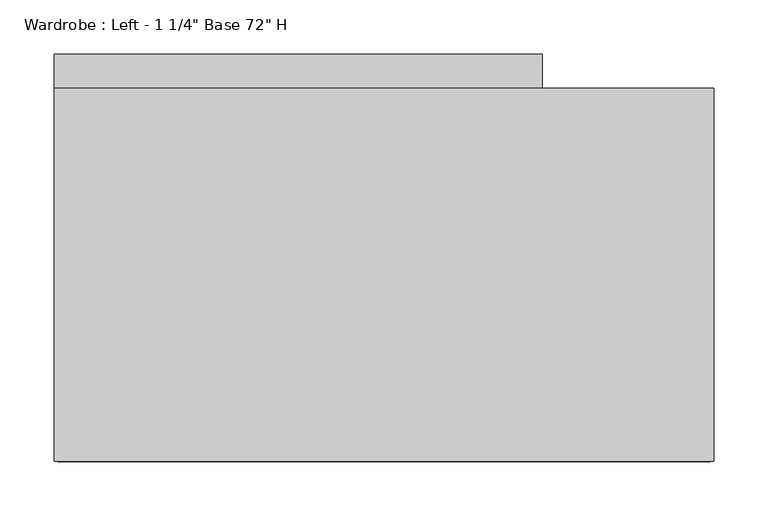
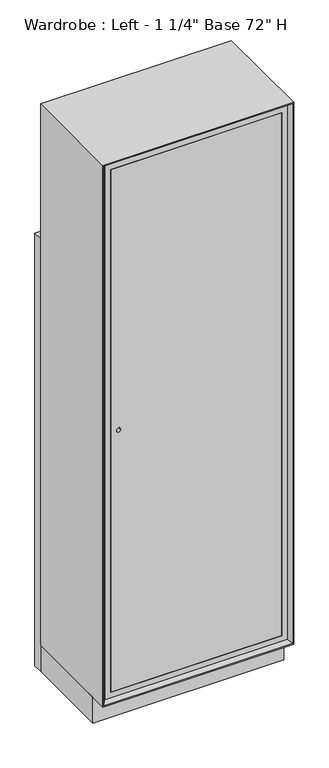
"""IFC4 building model written with IfcOpenShell, lengths in millimetres: furniture geometry."""

import ifcopenshell
import ifcopenshell.guid

model = None  # the IFC model being written
_history = None  # IfcOwnerHistory: only IFC2X3 demands one
_inside = {}  # id of a spatial element -> (the spatial element, [elements in it])
_under = {}  # id of a project, library or spatial element -> (it, [spatial elements below it])
_declared = {}  # id of a project -> (the project, [libraries it declares])
_typed = {}  # id of a type object -> (the type object, [elements of that type])
_made_of = {}  # id of a material, layer set ... -> (it, [elements and type objects made of it])


def new_model(schema):
    """Start an empty IFC model of exactly this schema.

    Asked for "IFC4X3", IfcOpenShell would pick the latest addendum, in which some entities
    have other attributes; the version numbers below select the first issue.
    IFC2X3 requires an IfcOwnerHistory on every rooted entity: one is made here for all.
    """
    global model, _history
    if schema == "IFC4X3":
        model = ifcopenshell.file(schema_version=(4, 3, 0, 0))
    else:
        model = ifcopenshell.file(schema=schema)
    _inside.clear()
    _under.clear()
    _declared.clear()
    _typed.clear()
    _made_of.clear()
    _history = None
    if model.schema == "IFC2X3":
        org = make("IfcOrganization", Name="unknown")
        user = make(
            "IfcPersonAndOrganization",
            ThePerson=make("IfcPerson", FamilyName="unknown"),
            TheOrganization=org,
        )
        app = make(
            "IfcApplication",
            ApplicationDeveloper=org,
            Version="unknown",
            ApplicationFullName="unknown",
            ApplicationIdentifier="unknown",
        )
        _history = make(
            "IfcOwnerHistory",
            OwningUser=user,
            OwningApplication=app,
            ChangeAction="ADDED",
            CreationDate=0,
        )
    return model


def make(cls, **values):
    """One entity of the class cls with the attributes given. An attribute that is None is left unset."""
    return model.create_entity(
        cls, **{name: value for name, value in values.items() if value is not None}
    )


def rooted(cls, **values):
    """An entity with a GlobalId (a new one), such as an element, a storey or a relation."""
    return make(cls, GlobalId=ifcopenshell.guid.new(), OwnerHistory=_history, **values)


def si_unit(unit_type, name, prefix=None):
    """IfcSIUnit, for example si_unit("LENGTHUNIT", "METRE", prefix="MILLI")."""
    return make("IfcSIUnit", UnitType=unit_type, Prefix=prefix, Name=name)


def assignment(units):
    """IfcUnitAssignment: the units of a project."""
    return None if units is None else make("IfcUnitAssignment", Units=units)


def point(xyz):
    """IfcCartesianPoint."""
    return None if xyz is None else make("IfcCartesianPoint", Coordinates=xyz)


def direction(xyz):
    """IfcDirection."""
    return None if xyz is None else make("IfcDirection", DirectionRatios=xyz)


def frame(location, z_axis=None, x_axis=None):
    """IfcAxis2Placement3D, a coordinate frame: its origin and axes. An axis left out is left unset."""
    return make(
        "IfcAxis2Placement3D",
        Location=point(location),
        Axis=direction(z_axis),
        RefDirection=direction(x_axis),
    )


def frame_2d(location, x_axis=None):
    """IfcAxis2Placement2D, a coordinate frame in the plane: its origin and x axis."""
    return make(
        "IfcAxis2Placement2D", Location=point(location), RefDirection=direction(x_axis)
    )


def origin():
    """The frame at (0, 0, 0) with its axes left unset."""
    return frame((0.0, 0.0, 0.0))


def origin_with_axes():
    """The frame at (0, 0, 0) with the z axis (0, 0, 1) and the x axis (1, 0, 0) written out."""
    return frame((0.0, 0.0, 0.0), z_axis=(0.0, 0.0, 1.0), x_axis=(1.0, 0.0, 0.0))


def place(relative_to, where):
    """IfcLocalPlacement: puts the frame where relative to a parent placement (None: the world)."""
    return make(
        "IfcLocalPlacement", PlacementRelTo=relative_to, RelativePlacement=where
    )


def context(
    kind, dimensions, precision=None, world=None, true_north=None, identifier=None
):
    """IfcGeometricRepresentationContext, for example the 3D "Model" context."""
    return make(
        "IfcGeometricRepresentationContext",
        ContextIdentifier=identifier,
        ContextType=kind,
        CoordinateSpaceDimension=dimensions,
        Precision=precision,
        WorldCoordinateSystem=world,
        TrueNorth=true_north,
    )


def project(units=None, contexts=None):
    """IfcProject with its units and contexts."""
    return rooted(
        "IfcProject",
        Name="project",
        RepresentationContexts=contexts,
        UnitsInContext=assignment(units),
    )


def spatial(cls, under=None, at=None, **own):
    """A site, building, storey or space (cls), placed at a placement, below another one or the project."""
    s = rooted(cls, ObjectPlacement=at, **own)
    if under is not None:
        _under.setdefault(under.id(), (under, []))[1].append(s)
    return s


def polyline(points):
    """IfcPolyline through the points."""
    return make("IfcPolyline", Points=[point(p) for p in points])


def circle_curve(where, radius):
    """IfcCircle in the frame where."""
    return make("IfcCircle", Position=where, Radius=radius)


def trimmed(basis, trim1, trim2, sense, master):
    """IfcTrimmedCurve: the piece of a basis curve between two trims."""
    return make(
        "IfcTrimmedCurve",
        BasisCurve=basis,
        Trim1=trim1,
        Trim2=trim2,
        SenseAgreement=sense,
        MasterRepresentation=master,
    )


def segment(curve, same_sense, transition):
    """IfcCompositeCurveSegment."""
    return make(
        "IfcCompositeCurveSegment",
        Transition=transition,
        SameSense=same_sense,
        ParentCurve=curve,
    )


def composite_curve(segments, self_intersect=None):
    """IfcCompositeCurve: segments joined end to end."""
    return make("IfcCompositeCurve", Segments=segments, SelfIntersect=self_intersect)


def outline(outer, holes=None, kind="AREA"):
    """IfcArbitraryClosedProfileDef: a profile drawn as a closed curve; with holes, ...WithVoids."""
    if holes is None:
        return make("IfcArbitraryClosedProfileDef", ProfileType=kind, OuterCurve=outer)
    return make(
        "IfcArbitraryProfileDefWithVoids",
        ProfileType=kind,
        OuterCurve=outer,
        InnerCurves=holes,
    )


def extrude(swept, where, along, depth):
    """IfcExtrudedAreaSolid: the profile swept, set in the frame where, extruded along a direction by depth."""
    return make(
        "IfcExtrudedAreaSolid",
        SweptArea=swept,
        Position=where,
        ExtrudedDirection=direction(along),
        Depth=depth,
    )


def faces_of(points, faces, orient=None, outer=None):
    """IfcFace entities. A face is a list of loops; a loop is a list of indices into points, from 0.

    orient and outer hold one flag for each loop. By default every Orientation is true, the
    first loop of a face is its IfcFaceOuterBound and the others are IfcFaceBound.
    """
    made = []
    for i, loops in enumerate(faces):
        bounds = []
        for j, loop in enumerate(loops):
            is_outer = j == 0 if outer is None else outer[i][j]
            bounds.append(
                make(
                    "IfcFaceOuterBound" if is_outer else "IfcFaceBound",
                    Bound=make("IfcPolyLoop", Polygon=[points[k] for k in loop]),
                    Orientation=True if orient is None else orient[i][j],
                )
            )
        made.append(make("IfcFace", Bounds=bounds))
    return made


def faceted_brep(points, faces, orient=None, outer=None, voids=None):
    """IfcFacetedBrep: a solid bounded by flat faces; with voids (closed shells), ...WithVoids."""
    shared = [point(p) for p in points]
    hull = make("IfcClosedShell", CfsFaces=faces_of(shared, faces, orient, outer))
    if voids is None:
        return make("IfcFacetedBrep", Outer=hull)
    return make(
        "IfcFacetedBrepWithVoids",
        Outer=hull,
        Voids=[
            make(cls, CfsFaces=faces_of(shared, fs, o, b)) for cls, fs, o, b in voids
        ],
    )


def shape(context_of_items, identifier, shape_type, items):
    """IfcShapeRepresentation: the items that make up one representation, for example the "Body"."""
    return make(
        "IfcShapeRepresentation",
        ContextOfItems=context_of_items,
        RepresentationIdentifier=identifier,
        RepresentationType=shape_type,
        Items=items,
    )


def source(mapping_origin, context_of_items, identifier, shape_type, items):
    """IfcRepresentationMap: a shape defined once, which mapped items show again and again."""
    return make(
        "IfcRepresentationMap",
        MappingOrigin=mapping_origin,
        MappedRepresentation=shape(context_of_items, identifier, shape_type, items),
    )


def transform(
    local_origin,
    x_axis=None,
    y_axis=None,
    z_axis=None,
    scale=None,
    scale2=None,
    scale3=None,
    uniform=True,
):
    """IfcCartesianTransformationOperator3D, or its non-uniform kind. x_axis, y_axis, z_axis: its Axis1, 2, 3."""
    if uniform:
        return make(
            "IfcCartesianTransformationOperator3D",
            Axis1=direction(x_axis),
            Axis2=direction(y_axis),
            LocalOrigin=point(local_origin),
            Scale=scale,
            Axis3=direction(z_axis),
        )
    return make(
        "IfcCartesianTransformationOperator3DnonUniform",
        Axis1=direction(x_axis),
        Axis2=direction(y_axis),
        LocalOrigin=point(local_origin),
        Scale=scale,
        Axis3=direction(z_axis),
        Scale2=scale2,
        Scale3=scale3,
    )


def mapped(mapping_source, mapping_target):
    """IfcMappedItem: shows the shape of a source again, moved by a transform."""
    return make(
        "IfcMappedItem", MappingSource=mapping_source, MappingTarget=mapping_target
    )


def made_of(thing, what):
    """Note that an element or type object is made of a material, layer set ...; save() writes the relation."""
    if what is not None:
        _made_of.setdefault(what.id(), (what, []))[1].append(thing)
    return thing


def element(
    cls,
    number,
    at=None,
    inside=None,
    cuts=None,
    type_object=None,
    material=None,
    context=None,
    identifier="Body",
    shape_type=None,
    held_by="IfcProductDefinitionShape",
    body=None,
    shapes=None,
    **own,
):
    """One element of the class cls, such as IfcWall. Its Tag is "e" and its number.

    at: its placement. inside: the storey or other place that contains it. cuts: it is an
    opening in that element (IfcRelVoidsElement). A single representation is given by context,
    identifier, shape_type and body (its items); several are given by shapes. held_by: the class
    of the entity that holds the representations. save() writes the other relations.
    """
    e = rooted(cls, Tag="e%d" % number, ObjectPlacement=at, **own)
    if body is not None:
        shapes = [shape(context, identifier, shape_type, body)]
    if shapes is not None:
        e.Representation = make(held_by, Representations=shapes)
    if inside is not None:
        _inside.setdefault(inside.id(), (inside, []))[1].append(e)
    if cuts is not None:
        rooted(
            "IfcRelVoidsElement", RelatingBuildingElement=cuts, RelatedOpeningElement=e
        )
    if type_object is not None:
        _typed.setdefault(type_object.id(), (type_object, []))[1].append(e)
    return made_of(e, material)


def aggregate(whole, parts):
    """IfcRelAggregates: a whole, such as a stair, and the parts it consists of."""
    return rooted("IfcRelAggregates", RelatingObject=whole, RelatedObjects=parts)


def save(model, path):
    """Write the relations noted so far, then the file.

    IfcRelAggregates (storeys below a building ...), IfcRelContainedInSpatialStructure (elements
    in a storey), IfcRelDefinesByType, IfcRelAssociatesMaterial and IfcRelDeclares: one each for
    every whole, place, type object, material and project.
    """
    for whole, parts in _under.values():
        aggregate(whole, parts)
    for where, things in _inside.values():
        rooted(
            "IfcRelContainedInSpatialStructure",
            RelatedElements=things,
            RelatingStructure=where,
        )
    for kind, things in _typed.values():
        rooted("IfcRelDefinesByType", RelatedObjects=things, RelatingType=kind)
    for what, things in _made_of.values():
        rooted("IfcRelAssociatesMaterial", RelatedObjects=things, RelatingMaterial=what)
    for by, libraries in _declared.values():
        rooted("IfcRelDeclares", RelatingContext=by, RelatedDefinitions=libraries)
    model.write(path)


def furniture_0787831a(model_context):
    return source(origin(), model_context, "Body", "SolidModel", [
        extrude(outline(polyline([(1903.4125, 292.1), (1903.4125, -292.1), (100.0125, -292.1), (100.0125, 292.1), (1903.4125, 292.1)]), holes=[polyline([(1884.3625, -273.05), (1884.3625, 273.05), (119.0625, 273.05), (119.0625, -273.05), (1884.3625, -273.05)])]), frame((0.0, -363.5375, 0.0), z_axis=(0.0, 1.0, 0.0), x_axis=(0.0, 0.0, 1.0)), (0.0, 0.0, 1.0), 331.7875),
        extrude(outline(polyline([(273.05, -31.75), (273.05, -50.8), (-273.05, -50.8), (-273.05, -31.75), (273.05, -31.75)])), frame((0.0, 0.0, 119.0625), z_axis=(0.0, 0.0, 1.0), x_axis=(1.0, 0.0, 0.0)), (0.0, 0.0, 1.0), 1765.3),
        extrude(outline(polyline([(1884.3625, 273.05), (1884.3625, -273.05), (119.0625, -273.05), (119.0625, 273.05), (1884.3625, 273.05)]), holes=[composite_curve([segment(trimmed(circle_curve(frame_2d((995.3625, -247.65)), 6.35), [point((995.3625, -254.0))], [point((995.3625, -241.3))], True, "CARTESIAN"), True, "CONTINUOUS"), segment(trimmed(circle_curve(frame_2d((995.3625, -247.65)), 6.35), [point((995.3625, -241.3))], [point((995.3625, -254.0))], True, "CARTESIAN"), True, "CONTINUOUS")], self_intersect=False)]), frame((0.0, -363.5375, 0.0), z_axis=(0.0, 1.0, 0.0), x_axis=(0.0, 0.0, 1.0)), (0.0, 0.0, 1.0), 19.05),
        faceted_brep([(292.1, -363.5375, 1903.4125), (292.1, -31.75, 1903.4125), (292.1, -31.75, 100.0125), (292.1, -363.5375, 100.0125), (301.625, -376.2375, 1912.9375), (301.625, -376.2375, 90.4875), (304.8, -31.75, 1916.1125), (304.8, -376.2375, 1916.1125), (304.8, -376.2375, 87.3125), (304.8, -31.75, 87.3125), (-292.1, -31.75, 100.0125), (-292.1, -363.5375, 100.0125), (-301.625, -376.2375, 90.4875), (-304.8, -376.2375, 87.3125), (-304.8, -31.75, 87.3125), (-292.1, -31.75, 1903.4125), (-292.1, -363.5375, 1903.4125), (-301.625, -376.2375, 1912.9375), (-304.8, -376.2375, 1916.1125), (-304.8, -31.75, 1916.1125)], [[[0, 1, 2, 3]], [[4, 0, 3, 5]], [[6, 7, 8, 9]], [[3, 2, 10, 11]], [[5, 3, 11, 12]], [[9, 8, 13, 14]], [[11, 10, 15, 16]], [[12, 11, 16, 17]], [[14, 13, 18, 19]], [[9, 14, 19, 6], [1, 15, 10, 2]], [[16, 15, 1, 0]], [[17, 16, 0, 4]], [[7, 18, 13, 8], [5, 12, 17, 4]], [[19, 18, 7, 6]]]),
        extrude(outline(polyline([(-304.8, 0.0), (146.2, 0.0), (146.2, -31.75), (-304.8, -31.75), (-304.8, 0.0)])), origin_with_axes(), (0.0, 0.0, 1.0), 1460.5),
        extrude(outline(polyline([(304.8, -31.75), (304.8, -320.675), (-304.8, -320.675), (-304.8, -31.75), (304.8, -31.75)])), origin_with_axes(), (0.0, 0.0, 1.0), 87.3125),
    ])


if __name__ == "__main__":
    model = new_model("IFC4")
    model_context = context("Model", 3, world=origin())
    ifc_project = project(units=[si_unit("LENGTHUNIT", "METRE", prefix="MILLI")], contexts=[model_context])
    site = spatial("IfcSite", under=ifc_project)
    building = spatial("IfcBuilding", under=site)
    placement = place(None, origin())
    furniture_shape = furniture_0787831a(model_context)
    element("IfcFurniture", 1, ObjectType="Wardrobe : Left - 1 1/4\" Base 72\" H", at=placement, inside=building, context=model_context, shape_type="MappedRepresentation", body=[
        mapped(furniture_shape, transform((0.0, 0.0, 0.0), x_axis=(1.0, 0.0, 0.0), y_axis=(0.0, 1.0, 0.0), z_axis=(0.0, 0.0, 1.0))),
    ])
    save(model, "model.ifc")
